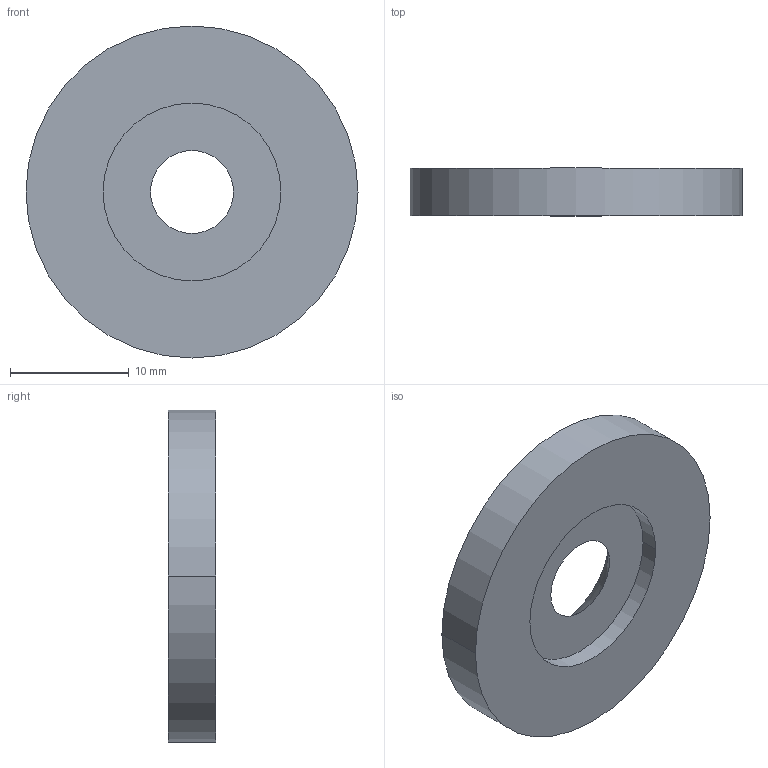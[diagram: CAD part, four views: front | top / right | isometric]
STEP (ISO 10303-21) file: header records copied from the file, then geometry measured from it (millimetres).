
FILE_DESCRIPTION((''),'2;1');
FILE_NAME('CHM_33','2002-12-27T',('Lipro doo'),('Lipro d.o.o.'),'PRO/ENGINEER BY PARAMETRIC TECHNOLOGY CORPORATION, 2001150','PRO/ENGINEER BY PARAMETRIC TECHNOLOGY CORPORATION, 2001150','');
FILE_SCHEMA(('CONFIG_CONTROL_DESIGN'));
Length unit declared in the file: millimetre
Products named in the file (1): CHM_33
Bounding box: 28 x 4 x 28 mm (x, y, z)
Volume: 2016.6 mm3; surface area: 1608 mm2
Topology: 1 solids, 1 shells, 9 faces, 18 edges, 12 vertices
Faces by surface type: cylinder 4, plane 3, cone 2
Entity records: 286 total; most frequent: DIRECTION 48, CARTESIAN_POINT 39, ORIENTED_EDGE 36, AXIS2_PLACEMENT_3D 21, EDGE_CURVE 18, VERTEX_POINT 12, EDGE_LOOP 12, CIRCLE 12
